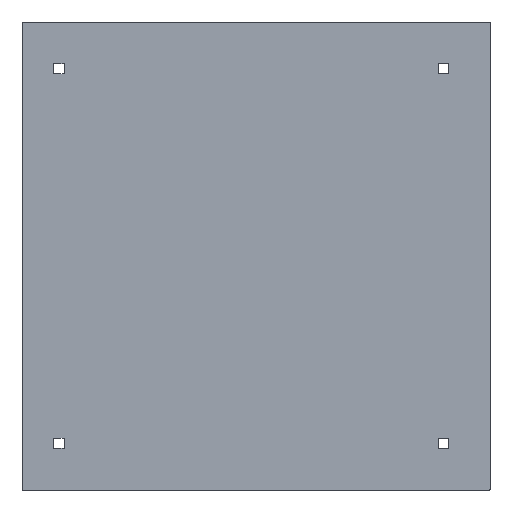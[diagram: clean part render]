
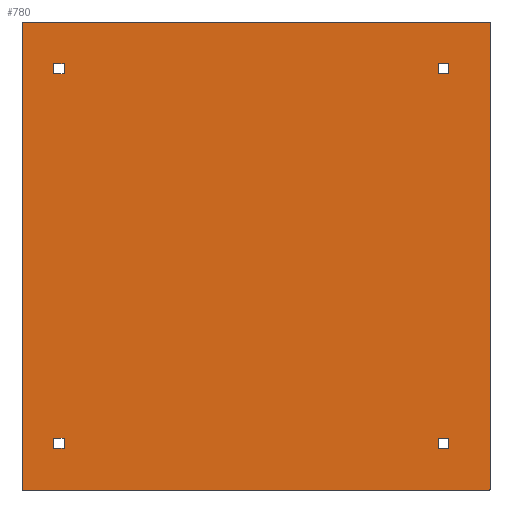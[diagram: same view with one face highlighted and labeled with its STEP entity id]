
A CAD part, front view. The second image highlights one B-rep face of the part: STEP entity #780.
In plain terms, the highlighted planar face has unit normal (0, -1, 0).
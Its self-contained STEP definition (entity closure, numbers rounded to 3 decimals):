
#23=FACE_BOUND('',#309,.T.);
#24=FACE_BOUND('',#310,.T.);
#25=FACE_BOUND('',#311,.T.);
#26=FACE_BOUND('',#312,.T.);
#38=PLANE('',#853);
#87=LINE('',#1196,#167);
#88=LINE('',#1198,#168);
#89=LINE('',#1200,#169);
#90=LINE('',#1201,#170);
#91=LINE('',#1204,#171);
#92=LINE('',#1206,#172);
#93=LINE('',#1208,#173);
#94=LINE('',#1209,#174);
#95=LINE('',#1212,#175);
#96=LINE('',#1214,#176);
#97=LINE('',#1216,#177);
#98=LINE('',#1217,#178);
#99=LINE('',#1220,#179);
#100=LINE('',#1222,#180);
#101=LINE('',#1224,#181);
#102=LINE('',#1225,#182);
#103=LINE('',#1228,#183);
#104=LINE('',#1230,#184);
#105=LINE('',#1232,#185);
#106=LINE('',#1233,#186);
#167=VECTOR('',#974,1398.);
#168=VECTOR('',#977,1398.);
#169=VECTOR('',#980,1398.);
#170=VECTOR('',#981,1398.);
#171=VECTOR('',#982,30.);
#172=VECTOR('',#983,30.);
#173=VECTOR('',#984,30.);
#174=VECTOR('',#985,30.);
#175=VECTOR('',#986,30.);
#176=VECTOR('',#987,30.);
#177=VECTOR('',#988,30.);
#178=VECTOR('',#989,30.);
#179=VECTOR('',#990,30.);
#180=VECTOR('',#991,30.);
#181=VECTOR('',#992,30.);
#182=VECTOR('',#993,30.);
#183=VECTOR('',#994,30.);
#184=VECTOR('',#995,30.);
#185=VECTOR('',#996,30.);
#186=VECTOR('',#997,30.);
#257=FACE_OUTER_BOUND('',#308,.T.);
#308=EDGE_LOOP('',(#606,#607,#608,#609,#610,#611,#612,#613));
#309=EDGE_LOOP('',(#614,#615,#616,#617));
#310=EDGE_LOOP('',(#618,#619,#620,#621));
#311=EDGE_LOOP('',(#622,#623,#624,#625));
#312=EDGE_LOOP('',(#626,#627,#628,#629));
#361=CIRCLE('',#828,1.);
#365=CIRCLE('',#834,1.);
#369=CIRCLE('',#840,1.);
#373=CIRCLE('',#847,1.);
#385=VERTEX_POINT('',#1139);
#386=VERTEX_POINT('',#1140);
#390=VERTEX_POINT('',#1152);
#391=VERTEX_POINT('',#1153);
#395=VERTEX_POINT('',#1165);
#396=VERTEX_POINT('',#1166);
#400=VERTEX_POINT('',#1181);
#401=VERTEX_POINT('',#1182);
#402=VERTEX_POINT('',#1202);
#403=VERTEX_POINT('',#1203);
#404=VERTEX_POINT('',#1205);
#405=VERTEX_POINT('',#1207);
#406=VERTEX_POINT('',#1210);
#407=VERTEX_POINT('',#1211);
#408=VERTEX_POINT('',#1213);
#409=VERTEX_POINT('',#1215);
#410=VERTEX_POINT('',#1218);
#411=VERTEX_POINT('',#1219);
#412=VERTEX_POINT('',#1221);
#413=VERTEX_POINT('',#1223);
#414=VERTEX_POINT('',#1226);
#415=VERTEX_POINT('',#1227);
#416=VERTEX_POINT('',#1229);
#417=VERTEX_POINT('',#1231);
#453=EDGE_CURVE('',#385,#386,#361,.T.);
#459=EDGE_CURVE('',#390,#391,#365,.T.);
#465=EDGE_CURVE('',#395,#396,#369,.T.);
#473=EDGE_CURVE('',#400,#401,#373,.T.);
#482=EDGE_CURVE('',#396,#385,#87,.T.);
#483=EDGE_CURVE('',#401,#395,#88,.T.);
#484=EDGE_CURVE('',#391,#400,#89,.T.);
#485=EDGE_CURVE('',#386,#390,#90,.T.);
#486=EDGE_CURVE('',#402,#403,#91,.T.);
#487=EDGE_CURVE('',#403,#404,#92,.T.);
#488=EDGE_CURVE('',#404,#405,#93,.T.);
#489=EDGE_CURVE('',#405,#402,#94,.T.);
#490=EDGE_CURVE('',#406,#407,#95,.T.);
#491=EDGE_CURVE('',#407,#408,#96,.T.);
#492=EDGE_CURVE('',#408,#409,#97,.T.);
#493=EDGE_CURVE('',#409,#406,#98,.T.);
#494=EDGE_CURVE('',#410,#411,#99,.T.);
#495=EDGE_CURVE('',#411,#412,#100,.T.);
#496=EDGE_CURVE('',#412,#413,#101,.T.);
#497=EDGE_CURVE('',#413,#410,#102,.T.);
#498=EDGE_CURVE('',#414,#415,#103,.T.);
#499=EDGE_CURVE('',#415,#416,#104,.T.);
#500=EDGE_CURVE('',#416,#417,#105,.T.);
#501=EDGE_CURVE('',#417,#414,#106,.T.);
#606=ORIENTED_EDGE('',*,*,#453,.F.);
#607=ORIENTED_EDGE('',*,*,#482,.F.);
#608=ORIENTED_EDGE('',*,*,#465,.F.);
#609=ORIENTED_EDGE('',*,*,#483,.F.);
#610=ORIENTED_EDGE('',*,*,#473,.F.);
#611=ORIENTED_EDGE('',*,*,#484,.F.);
#612=ORIENTED_EDGE('',*,*,#459,.F.);
#613=ORIENTED_EDGE('',*,*,#485,.F.);
#614=ORIENTED_EDGE('',*,*,#486,.T.);
#615=ORIENTED_EDGE('',*,*,#487,.T.);
#616=ORIENTED_EDGE('',*,*,#488,.T.);
#617=ORIENTED_EDGE('',*,*,#489,.T.);
#618=ORIENTED_EDGE('',*,*,#490,.T.);
#619=ORIENTED_EDGE('',*,*,#491,.T.);
#620=ORIENTED_EDGE('',*,*,#492,.T.);
#621=ORIENTED_EDGE('',*,*,#493,.T.);
#622=ORIENTED_EDGE('',*,*,#494,.T.);
#623=ORIENTED_EDGE('',*,*,#495,.T.);
#624=ORIENTED_EDGE('',*,*,#496,.T.);
#625=ORIENTED_EDGE('',*,*,#497,.T.);
#626=ORIENTED_EDGE('',*,*,#498,.T.);
#627=ORIENTED_EDGE('',*,*,#499,.T.);
#628=ORIENTED_EDGE('',*,*,#500,.T.);
#629=ORIENTED_EDGE('',*,*,#501,.T.);
#780=ADVANCED_FACE('',(#257,#23,#24,#25,#26),#38,.F.);
#828=AXIS2_PLACEMENT_3D('',#1141,#910,#911);
#834=AXIS2_PLACEMENT_3D('',#1154,#924,#925);
#840=AXIS2_PLACEMENT_3D('',#1167,#938,#939);
#847=AXIS2_PLACEMENT_3D('',#1183,#956,#957);
#853=AXIS2_PLACEMENT_3D('',#1199,#978,#979);
#910=DIRECTION('center_axis',(0.,1.,0.));
#911=DIRECTION('ref_axis',(0.707,0.,-0.707));
#924=DIRECTION('center_axis',(0.,1.,0.));
#925=DIRECTION('ref_axis',(-0.707,0.,-0.707));
#938=DIRECTION('center_axis',(0.,1.,0.));
#939=DIRECTION('ref_axis',(0.707,0.,0.707));
#956=DIRECTION('center_axis',(0.,1.,0.));
#957=DIRECTION('ref_axis',(-0.707,0.,0.707));
#974=DIRECTION('',(0.,0.,-1.));
#977=DIRECTION('',(1.,0.,0.));
#978=DIRECTION('center_axis',(0.,1.,0.));
#979=DIRECTION('ref_axis',(0.,0.,1.));
#980=DIRECTION('',(0.,0.,1.));
#981=DIRECTION('',(-1.,0.,0.));
#982=DIRECTION('',(0.,0.,-1.));
#983=DIRECTION('',(-1.,0.,0.));
#984=DIRECTION('',(0.,0.,1.));
#985=DIRECTION('',(1.,0.,0.));
#986=DIRECTION('',(0.,0.,1.));
#987=DIRECTION('',(1.,0.,0.));
#988=DIRECTION('',(0.,0.,-1.));
#989=DIRECTION('',(-1.,0.,0.));
#990=DIRECTION('',(0.,0.,1.));
#991=DIRECTION('',(1.,0.,0.));
#992=DIRECTION('',(0.,0.,-1.));
#993=DIRECTION('',(-1.,0.,0.));
#994=DIRECTION('',(0.,0.,1.));
#995=DIRECTION('',(1.,0.,0.));
#996=DIRECTION('',(0.,0.,-1.));
#997=DIRECTION('',(-1.,0.,0.));
#1139=CARTESIAN_POINT('',(1400.,0.,-1399.));
#1140=CARTESIAN_POINT('',(1399.,0.,-1400.));
#1141=CARTESIAN_POINT('Origin',(1399.,0.,-1399.));
#1152=CARTESIAN_POINT('',(1.,0.,-1400.));
#1153=CARTESIAN_POINT('',(0.,0.,-1399.));
#1154=CARTESIAN_POINT('Origin',(1.,0.,-1399.));
#1165=CARTESIAN_POINT('',(1399.,0.,0.));
#1166=CARTESIAN_POINT('',(1400.,0.,-1.));
#1167=CARTESIAN_POINT('Origin',(1399.,0.,-1.));
#1181=CARTESIAN_POINT('',(0.,0.,-1.));
#1182=CARTESIAN_POINT('',(1.,0.,0.));
#1183=CARTESIAN_POINT('Origin',(1.,0.,-1.));
#1196=CARTESIAN_POINT('',(1400.,0.,0.));
#1198=CARTESIAN_POINT('',(0.,0.,0.));
#1199=CARTESIAN_POINT('Origin',(700.,0.,-700.));
#1200=CARTESIAN_POINT('',(0.,0.,-1400.));
#1201=CARTESIAN_POINT('',(1400.,0.,-1400.));
#1202=CARTESIAN_POINT('',(125.666,0.,-125.));
#1203=CARTESIAN_POINT('',(125.666,0.,-155.));
#1204=CARTESIAN_POINT('',(125.666,0.,-412.5));
#1205=CARTESIAN_POINT('',(95.666,0.,-155.));
#1206=CARTESIAN_POINT('',(412.833,0.,-155.));
#1207=CARTESIAN_POINT('',(95.666,0.,-125.));
#1208=CARTESIAN_POINT('',(95.666,0.,-427.5));
#1209=CARTESIAN_POINT('',(397.833,0.,-125.));
#1210=CARTESIAN_POINT('',(95.666,0.,-1275.));
#1211=CARTESIAN_POINT('',(95.666,0.,-1245.));
#1212=CARTESIAN_POINT('',(95.666,0.,-987.5));
#1213=CARTESIAN_POINT('',(125.666,0.,-1245.));
#1214=CARTESIAN_POINT('',(397.833,0.,-1245.));
#1215=CARTESIAN_POINT('',(125.666,0.,-1275.));
#1216=CARTESIAN_POINT('',(125.666,0.,-972.5));
#1217=CARTESIAN_POINT('',(412.833,0.,-1275.));
#1218=CARTESIAN_POINT('',(1245.,0.,-155.));
#1219=CARTESIAN_POINT('',(1245.,0.,-125.));
#1220=CARTESIAN_POINT('',(1245.,0.,-427.5));
#1221=CARTESIAN_POINT('',(1275.,0.,-125.));
#1222=CARTESIAN_POINT('',(972.5,0.,-125.));
#1223=CARTESIAN_POINT('',(1275.,0.,-155.));
#1224=CARTESIAN_POINT('',(1275.,0.,-412.5));
#1225=CARTESIAN_POINT('',(987.5,0.,-155.));
#1226=CARTESIAN_POINT('',(1245.,0.,-1275.));
#1227=CARTESIAN_POINT('',(1245.,0.,-1245.));
#1228=CARTESIAN_POINT('',(1245.,0.,-987.5));
#1229=CARTESIAN_POINT('',(1275.,0.,-1245.));
#1230=CARTESIAN_POINT('',(972.5,0.,-1245.));
#1231=CARTESIAN_POINT('',(1275.,0.,-1275.));
#1232=CARTESIAN_POINT('',(1275.,0.,-972.5));
#1233=CARTESIAN_POINT('',(987.5,0.,-1275.));
